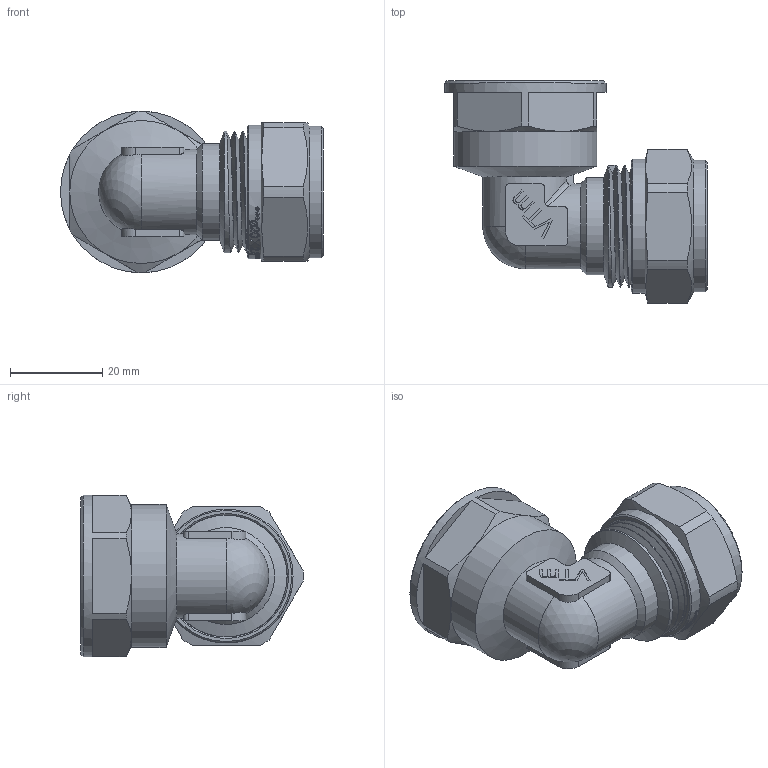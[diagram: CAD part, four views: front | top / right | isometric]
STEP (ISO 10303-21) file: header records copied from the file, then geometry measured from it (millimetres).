
FILE_DESCRIPTION(/* description */ (''),/* implementation_level */ '2;1');
FILE_NAME(/* name */ 'F:\Артём\00000\Работа удаленка\Обжимные фитинги\VTm.352.N.002005.stp',/* time_stamp */ '2020-08-06T13:20:41+03:00',/* author */ ('almis'),/* organization */ (''),/* preprocessor_version */ 'ST-DEVELOPER v18',/* originating_system */ 'Autodesk Inventor 2020',/* authorisation */ '');
FILE_SCHEMA (('AUTOMOTIVE_DESIGN { 1 0 10303 214 3 1 1 }'));
Length unit declared in the file: millimetre
Products named in the file (1): VTm.341.N.202020
Bounding box: 56.98 x 48.21 x 35 mm (x, y, z)
Volume: 20270 mm3; surface area: 17089.1 mm2
Topology: 1 solids, 2 shells, 778 faces, 2181 edges, 1464 vertices
Faces by surface type: bspline 372, plane 251, cylinder 106, cone 24, torus 23, sphere 2
Full cylindrical faces by diameter (mm): 11.5 x1, 13.4 x2, 15 x1, 15.75 x4, 18.444 x1, 19.986 x4, 20.2 x1, 20.728 x5, 21 x2, 22.8 x3, 23.201 x1, 24.1 x6, 24.2 x1, 26.4 x3, 27.7 x7, 28.5 x1, 29 x1, 31 x1, 35 x1
Entity records: 33476 total; most frequent: CARTESIAN_POINT 15770, ORIENTED_EDGE 4358, DIRECTION 2518, EDGE_CURVE 2179, VERTEX_POINT 1464, LINE 984, VECTOR 984, EDGE_LOOP 841
